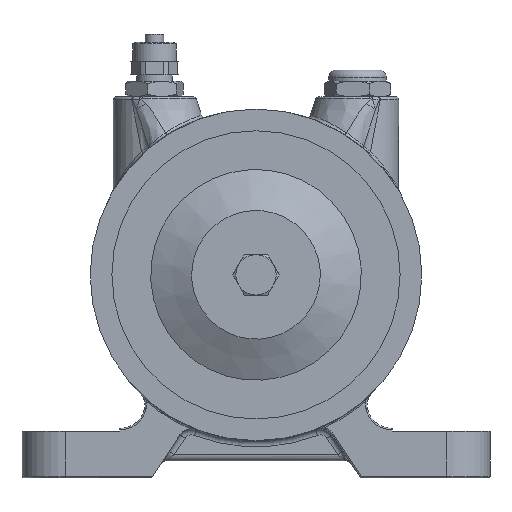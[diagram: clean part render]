
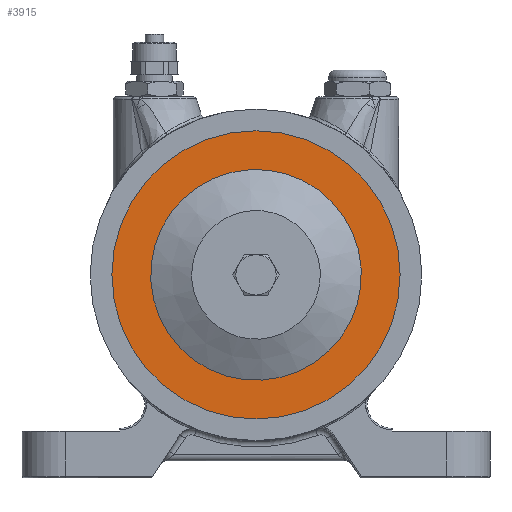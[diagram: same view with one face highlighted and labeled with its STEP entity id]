
A CAD part, left-side view. The second image highlights one B-rep face of the part: STEP entity #3915.
In plain terms, the highlighted planar face has unit normal (-1, 0, 0).
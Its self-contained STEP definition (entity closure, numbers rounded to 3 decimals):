
#712=FACE_BOUND('',#1355,.T.);
#1098=FACE_OUTER_BOUND('',#1354,.T.);
#1354=EDGE_LOOP('',(#3292));
#1355=EDGE_LOOP('',(#3293));
#1463=CIRCLE('',#4044,46.5);
#1618=CIRCLE('',#4301,34.);
#1701=VERTEX_POINT('',#5566);
#1901=VERTEX_POINT('',#8253);
#2039=EDGE_CURVE('',#1701,#1701,#1463,.T.);
#2384=EDGE_CURVE('',#1901,#1901,#1618,.T.);
#3292=ORIENTED_EDGE('',*,*,#2039,.F.);
#3293=ORIENTED_EDGE('',*,*,#2384,.F.);
#3715=PLANE('',#4302);
#3915=ADVANCED_FACE('',(#1098,#712),#3715,.T.);
#4044=AXIS2_PLACEMENT_3D('',#5568,#4498,#4499);
#4301=AXIS2_PLACEMENT_3D('',#8255,#5105,#5106);
#4302=AXIS2_PLACEMENT_3D('',#8256,#5107,#5108);
#4498=DIRECTION('center_axis',(1.,0.,0.));
#4499=DIRECTION('ref_axis',(0.,0.,1.));
#5105=DIRECTION('center_axis',(-1.,0.,0.));
#5106=DIRECTION('ref_axis',(0.,0.28,-0.96));
#5107=DIRECTION('center_axis',(-1.,0.,0.));
#5108=DIRECTION('ref_axis',(0.,0.96,0.28));
#5566=CARTESIAN_POINT('',(-25.05,0.,-46.5));
#5568=CARTESIAN_POINT('Origin',(-25.05,0.,0.));
#8253=CARTESIAN_POINT('',(-25.05,-9.525,32.639));
#8255=CARTESIAN_POINT('Origin',(-25.05,0.,0.));
#8256=CARTESIAN_POINT('Origin',(-25.05,11.276,-38.638));
